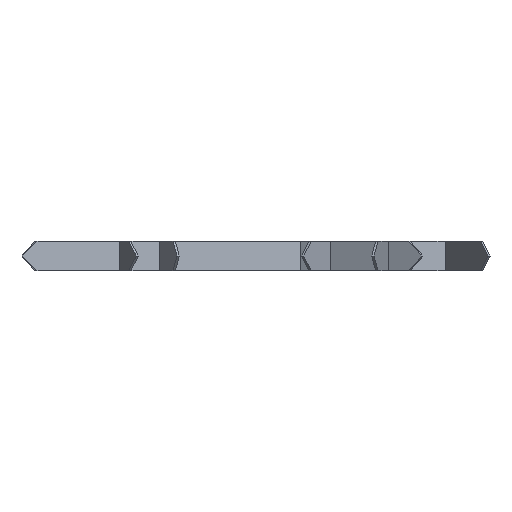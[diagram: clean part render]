
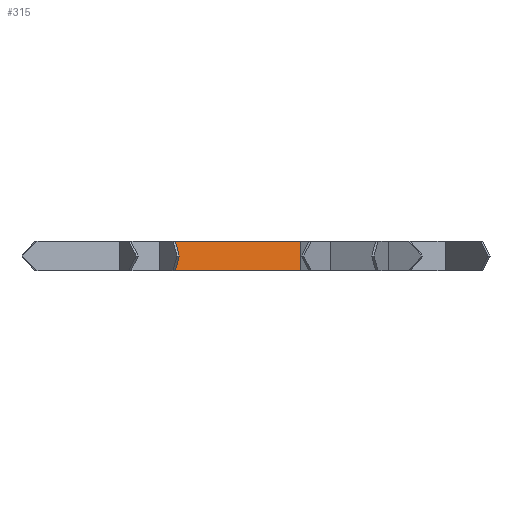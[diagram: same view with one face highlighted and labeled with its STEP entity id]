
A CAD part, left-side view. The second image highlights one B-rep face of the part: STEP entity #315.
In plain terms, the highlighted planar face has unit normal (-0.966, -0.259, 0).
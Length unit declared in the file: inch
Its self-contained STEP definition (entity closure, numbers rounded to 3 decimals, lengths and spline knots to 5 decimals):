
#315=ADVANCED_FACE('',(#513),#4324,.T.);
#513=FACE_OUTER_BOUND('',#711,.T.);
#711=EDGE_LOOP('',(#1091,#1092,#1093,#1094));
#1091=ORIENTED_EDGE('',*,*,#2305,.T.);
#1092=ORIENTED_EDGE('',*,*,#2265,.T.);
#1093=ORIENTED_EDGE('',*,*,#2269,.T.);
#1094=ORIENTED_EDGE('',*,*,#2266,.F.);
#2265=EDGE_CURVE('',#3841,#3812,#3049,.T.);
#2266=EDGE_CURVE('',#3840,#3811,#3050,.T.);
#2269=EDGE_CURVE('',#3812,#3811,#3053,.T.);
#2305=EDGE_CURVE('',#3840,#3841,#3089,.T.);
#3049=B_SPLINE_CURVE_WITH_KNOTS('',1,(#5852,#5853),.UNSPECIFIED.,.F.,.F.,
(2,2),(40.39536,72.23603),.UNSPECIFIED.);
#3050=B_SPLINE_CURVE_WITH_KNOTS('',1,(#5854,#5855),.UNSPECIFIED.,.F.,.F.,
(2,2),(40.39536,72.23603),.UNSPECIFIED.);
#3053=B_SPLINE_CURVE_WITH_KNOTS('',1,(#5860,#5861),.UNSPECIFIED.,.F.,.F.,
(2,2),(0.,6.),.UNSPECIFIED.);
#3089=B_SPLINE_CURVE_WITH_KNOTS('',1,(#5932,#5933),.UNSPECIFIED.,.F.,.F.,
(2,2),(-6.,0.),.UNSPECIFIED.);
#3811=VERTEX_POINT('',#5207);
#3812=VERTEX_POINT('',#5208);
#3840=VERTEX_POINT('',#5236);
#3841=VERTEX_POINT('',#5237);
#4324=PLANE('',#4585);
#4585=AXIS2_PLACEMENT_3D('',#4990,#4759,$);
#4759=DIRECTION('',(-0.966,-0.259,0.));
#4990=CARTESIAN_POINT('',(-476.48545,-233.98941,129.));
#5207=CARTESIAN_POINT('',(-493.66738,-169.86556,123.));
#5208=CARTESIAN_POINT('',(-493.66738,-169.86556,129.));
#5236=CARTESIAN_POINT('',(-485.99952,-198.48242,123.));
#5237=CARTESIAN_POINT('',(-485.99952,-198.48242,129.));
#5852=CARTESIAN_POINT('',(-485.99952,-198.48242,129.));
#5853=CARTESIAN_POINT('',(-493.66738,-169.86556,129.));
#5854=CARTESIAN_POINT('',(-485.99952,-198.48242,123.));
#5855=CARTESIAN_POINT('',(-493.66738,-169.86556,123.));
#5860=CARTESIAN_POINT('',(-493.66738,-169.86556,129.));
#5861=CARTESIAN_POINT('',(-493.66738,-169.86556,123.));
#5932=CARTESIAN_POINT('',(-485.99952,-198.48242,123.));
#5933=CARTESIAN_POINT('',(-485.99952,-198.48242,129.));
